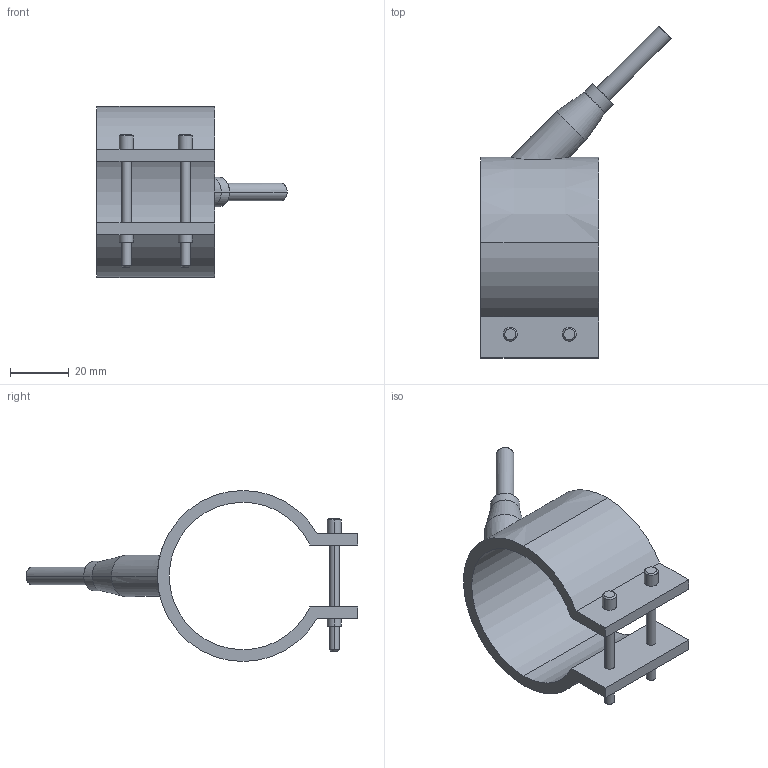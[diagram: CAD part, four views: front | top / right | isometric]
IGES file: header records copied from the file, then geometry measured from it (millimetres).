
Start section: START RECORD GO HERE.
Global section: file name: 29050040.igs; native system: DASSAULT SYSTEMES CATIA V5 R20 - www.3ds.com; preprocessor: CATIA Version 5 Release 20 ; author: Utente; organization: NB04-ASUS; date: 20210327.102957; units: millimetre
Bounding box: 64.55 x 112.55 x 58 mm (x, y, z)
Surface area: 18071.9 mm2 (no closed solid volume)
Topology: 0 solids, 0 shells, 54 faces, 248 edges, 248 vertices
Faces by surface type: revolution 38, plane 16
